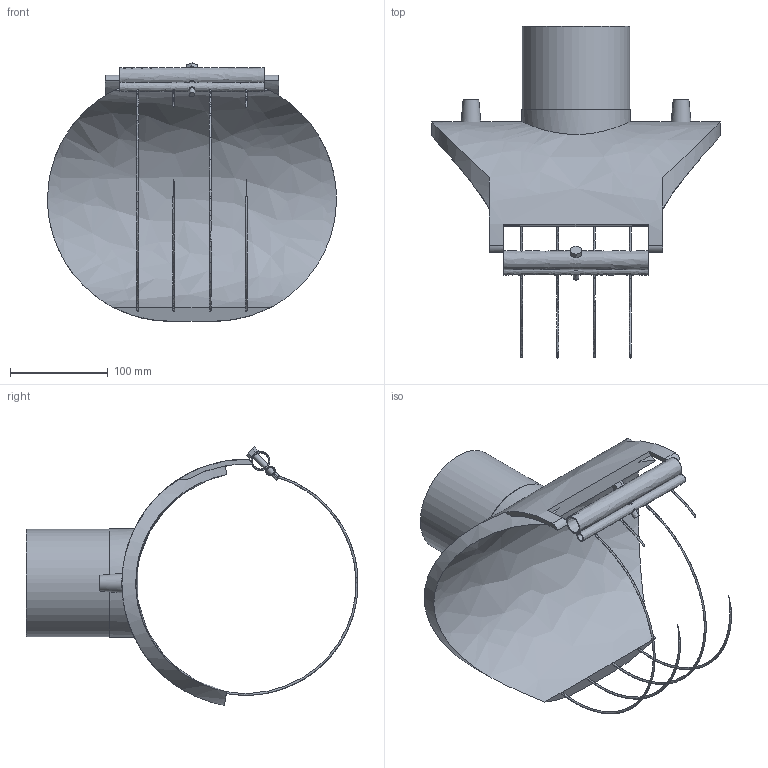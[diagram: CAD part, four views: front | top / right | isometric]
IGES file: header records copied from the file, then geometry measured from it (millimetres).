
Global section: file name: 4958X4225110T; native system: Autodesk Inventor 2021; preprocessor: unknown; author: KIM; date: 20250507.121534; units: millimetre
Bounding box: 295 x 339 x 264 mm (x, y, z)
Volume: 1479226.9 mm3; surface area: 282596.1 mm2
Topology: 1 solids, 1 shells, 61 faces, 183 edges, 124 vertices
Faces by surface type: bspline 61
